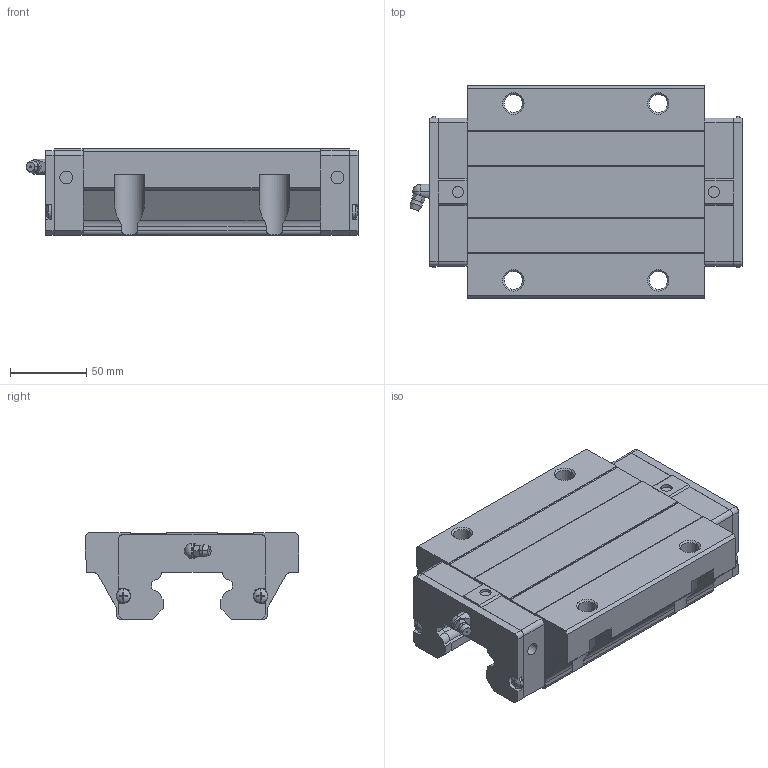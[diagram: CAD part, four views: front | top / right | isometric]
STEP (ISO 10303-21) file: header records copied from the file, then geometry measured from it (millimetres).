
FILE_DESCRIPTION(('starvars output'),'2;1');
FILE_NAME('cv20190625230926000114415.stp','23:09:26 2019/06/25',( 'Thomas Industrial Network Germany GmbH'),( 'Thomas Industrial Network Germany GmbH'),'unknown preprocess','ACIS' ,'unknown authorization');
FILE_SCHEMA(('CONFIG_CONTROL_DESIGN {UNKNOWN IMPLEMENTATION LEVEL}'));
Length unit declared in the file: millimetre
Products named in the file (10): PRODUCT_ID_1; PRODUCT_ID_2; PRODUCT_ID_3; PRODUCT_ID_4; PRODUCT_ID_5; PRODUCT_ID_6; PRODUCT_ID_7; PRODUCT_ID_8; PRODUCT_ID_9; PRODUCT_ID_10
Bounding box: 217.7 x 140 x 57 mm (x, y, z)
Volume: 1037279 mm3; surface area: 137752.6 mm2
Topology: 10 solids, 10 shells, 433 faces, 1144 edges, 737 vertices
Faces by surface type: plane 270, cylinder 89, cone 62, sphere 12
Entity records: 12959 total; most frequent: ORIENTED_EDGE 2280, CARTESIAN_POINT 2273, DIRECTION 1772, EDGE_CURVE 1140, VERTEX_POINT 737, VECTOR 708, LINE 708, AXIS2_PLACEMENT_3D 532
